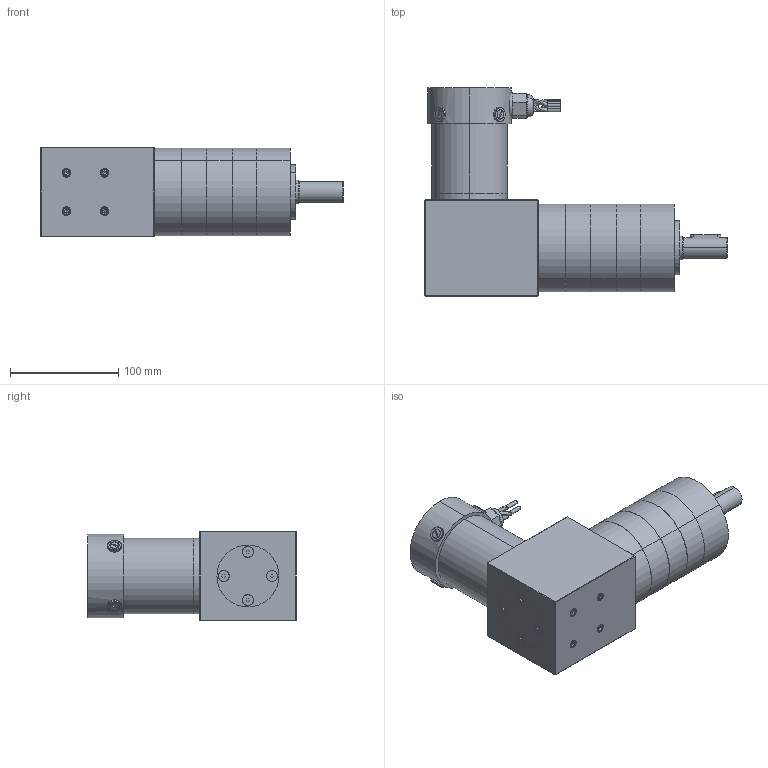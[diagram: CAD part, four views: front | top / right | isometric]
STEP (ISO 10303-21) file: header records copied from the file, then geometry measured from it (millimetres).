
FILE_DESCRIPTION (( 'STEP AP203' ), '1' );
FILE_NAME ('s27411agra4.step', '2018-12-07T20:03:25', ( '' ), ( '' ), 'SwSTEP 2.0', 'SolidWorks 2017', '' );
FILE_SCHEMA (( 'CONFIG_CONTROL_DESIGN' ));
Products named in the file (1): s27411agra4
Bounding box: 278.98 x 192.02 x 82.55 mm (x, y, z)
Volume: 1865021.7 mm3; surface area: 211082 mm2
Topology: 29 solids, 29 shells, 1247 faces, 3123 edges, 1979 vertices
Faces by surface type: cylinder 719, plane 364, cone 101, torus 39, bspline 16, sphere 8
Entity records: 57080 total; most frequent: CARTESIAN_POINT 29819, ORIENTED_EDGE 6198, DIRECTION 5276, EDGE_CURVE 3099, AXIS2_PLACEMENT_3D 1991, VERTEX_POINT 1979, EDGE_LOOP 1352, VECTOR 1294
